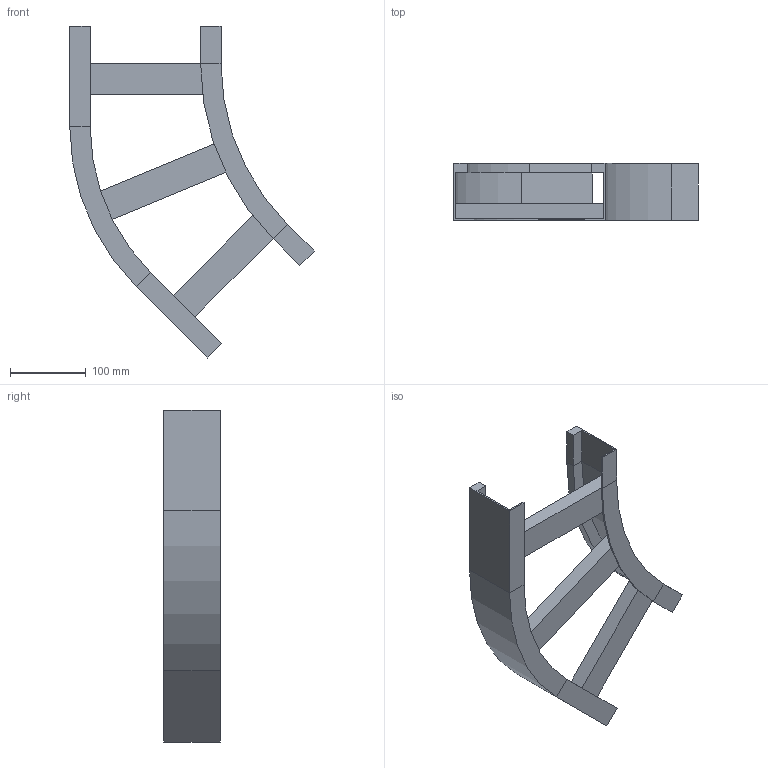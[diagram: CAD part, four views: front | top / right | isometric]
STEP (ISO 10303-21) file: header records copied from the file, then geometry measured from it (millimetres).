
FILE_DESCRIPTION (( 'STEP AP214' ), '1' );
FILE_NAME ('B2_11B3C200.step', '2025-02-21T15:16:28', ( '' ), ( '' ), 'SwSTEP 2.0', 'SolidWorks 2023', '' );
FILE_SCHEMA (( 'AUTOMOTIVE_DESIGN' ));
Length unit declared in the file: millimetre
Products named in the file (5): TRAVERSINO_200; B2_11B3C200; B2_LONGH.ESTERNO 45°_H75_R300+200; B2_LONGH.INTERNO 45°_H75_R300; TRAVERSINO_L211
Assembly tree (5 placements, depth 2):
  B2_11B3C200
    B2_LONGH.INTERNO 45°_H75_R300
    B2_LONGH.ESTERNO 45°_H75_R300+200
    TRAVERSINO_200  x2
    TRAVERSINO_L211
Bounding box: 323.22 x 75 x 438.91 mm (x, y, z)
Volume: 816504.3 mm3; surface area: 276905.1 mm2
Topology: 5 solids, 5 shells, 70 faces, 148 edges, 88 vertices
Faces by surface type: plane 62, cylinder 8
Entity records: 1822 total; most frequent: DIRECTION 296, CARTESIAN_POINT 288, ORIENTED_EDGE 272, EDGE_CURVE 136, VECTOR 120, LINE 120, AXIS2_PLACEMENT_3D 88, VERTEX_POINT 80
